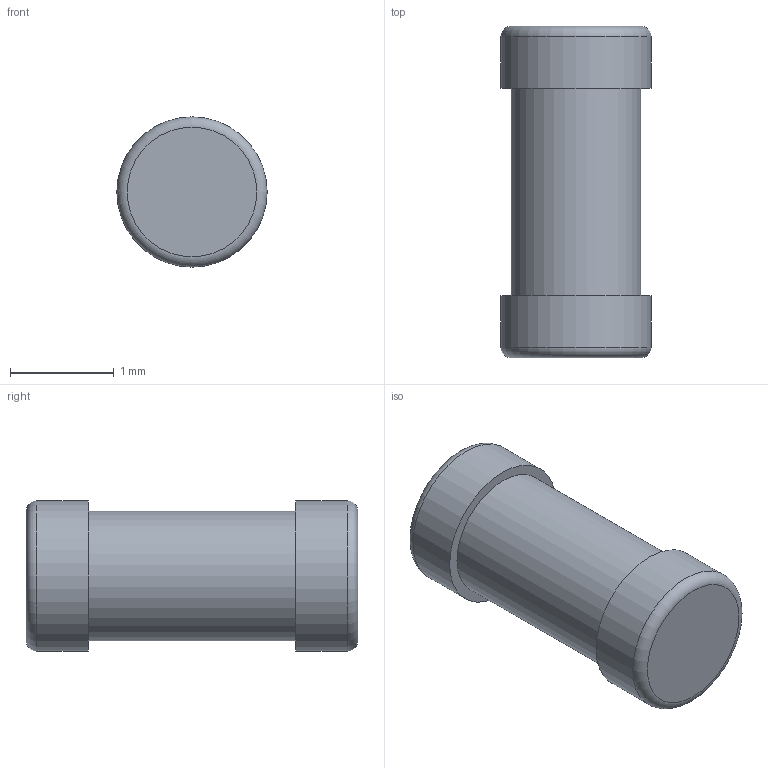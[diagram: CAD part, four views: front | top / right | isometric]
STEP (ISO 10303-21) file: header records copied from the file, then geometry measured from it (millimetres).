
FILE_DESCRIPTION(('STEP AP203'), '1');
FILE_NAME('Ð1-155 0204', '', ('UNSPECIFIED'), ('UNSPECIFIED'), 'ASCON STEP Converter 1.6', 'ASCON Math Kernel', '');
FILE_SCHEMA(('CONFIG_CONTROL_DESIGN'));
Length unit declared in the file: millimetre
Bounding box: 1.45 x 3.2 x 1.45 mm (x, y, z)
Volume: 4.4 mm3; surface area: 17.1 mm2
Topology: 1 solids, 1 shells, 9 faces, 13 edges, 8 vertices
Faces by surface type: plane 4, cylinder 3, torus 2
Full cylindrical faces by diameter (mm): 1.25 x1, 1.45 x2
Entity records: 290 total; most frequent: DIRECTION 36, CARTESIAN_POINT 26, AXIS2_PLACEMENT_3D 18, EDGE_LOOP 16, ORIENTED_EDGE 16, COLOUR_RGB 10, FILL_AREA_STYLE_COLOUR 10, FILL_AREA_STYLE 10
